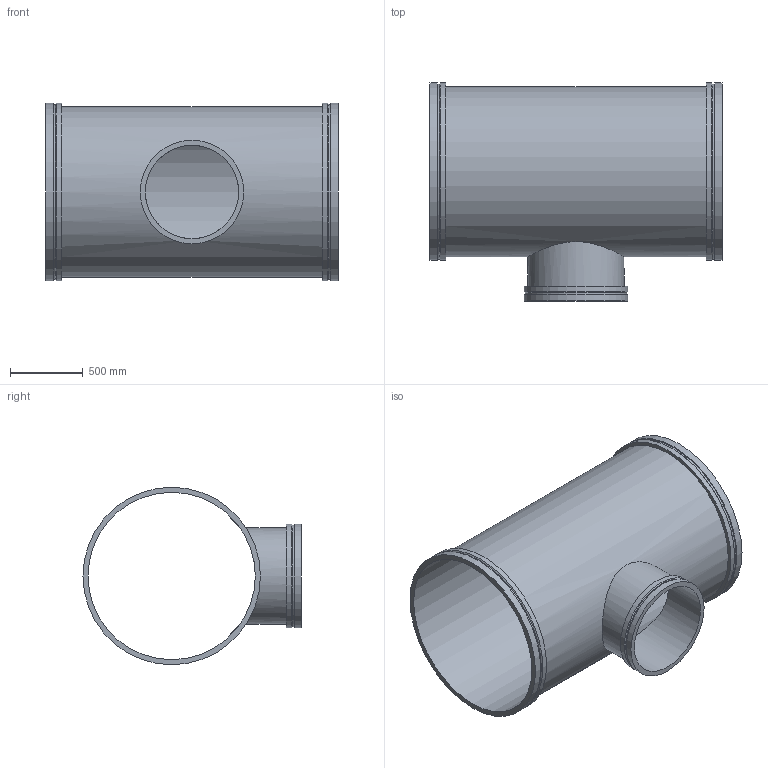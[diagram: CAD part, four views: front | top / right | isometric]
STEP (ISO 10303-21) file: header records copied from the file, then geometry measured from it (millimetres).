
FILE_DESCRIPTION(/* description */ ('VIC REDUCING TEE No W025 VR','CAx-IF Rec.Pracs.---Representation and Presentation of Product Manufacturing Information (PMI)---4.0---2014-10-13'),/* implementation_level */ '2;1');
FILE_NAME(/* name */ 'C:\Users\kkamble\AppData\Roaming\Autodesk\ApplicationPlugins\Back Up\Victaulic_Vic-Ring_Tee Reducing_No W25 VR (AGR)\Victaulic_Vic-Ring_Tee Reducing_No W25 VR (AGR)_46.0x26.0 (1150x650).stp',/* time_stamp */ '2020-09-10T11:56:30+05:00',/* author */ ('mchristi'),/* organization */ ('Victaulic'),/* preprocessor_version */ 'ST-DEVELOPER v17.2',/* originating_system */ 'Autodesk Inventor 2019',/* authorisation */ '');
FILE_SCHEMA (('AP242_MANAGED_MODEL_BASED_3D_ENGINEERING_MIM_LF { 1 0 10303 442 1 1 4 }'));
Length unit declared in the file: inch
Products named in the file (1): W25 VR-46.0x26.0
Bounding box: 2006.6 x 1498.6 x 1219.2 mm (x, y, z)
Volume: 98093655.1 mm3; surface area: 16120371 mm2
Topology: 1 solids, 1 shells, 25 faces, 68 edges, 52 vertices
Faces by surface type: cylinder 13, plane 9, cone 3
Full cylindrical faces by diameter (mm): 641.35 x1, 660.4 x1, 696.722 x1, 711.2 x2, 1149.35 x1, 1168.4 x1, 1203.325 x2, 1219.2 x4
Entity records: 1267 total; most frequent: CARTESIAN_POINT 423, DIRECTION 190, ORIENTED_EDGE 136, AXIS2_PLACEMENT_3D 87, EDGE_CURVE 68, VERTEX_POINT 52, CIRCLE 48, EDGE_LOOP 36
